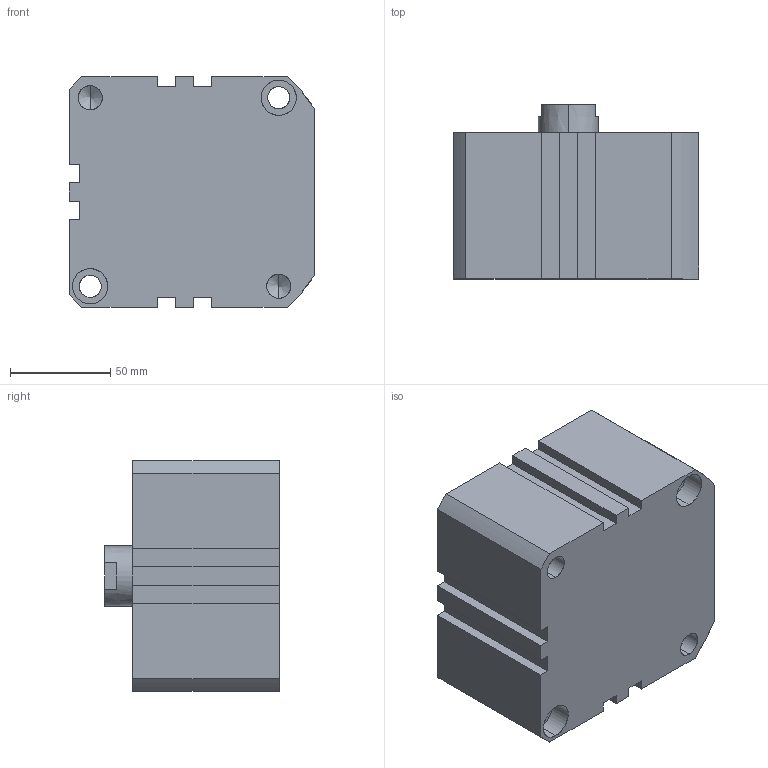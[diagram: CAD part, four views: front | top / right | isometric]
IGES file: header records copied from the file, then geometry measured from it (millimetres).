
Start section: SolidWorks IGES file using analytic representation for surfaces
Global section: file name: C:\Users\Toshiba\Desktop\XC#2-100D-10.IGS; native system: SolidWorks 2014; preprocessor: SolidWorks 2014; author: Toshiba; date: 160523.161810; units: millimetre
Bounding box: 122.5 x 87 x 115 mm (x, y, z)
Surface area: 80488.4 mm2 (no closed solid volume)
Topology: 0 solids, 0 shells, 111 faces, 1863 edges, 1849 vertices
Faces by surface type: revolution 65, bspline 46
